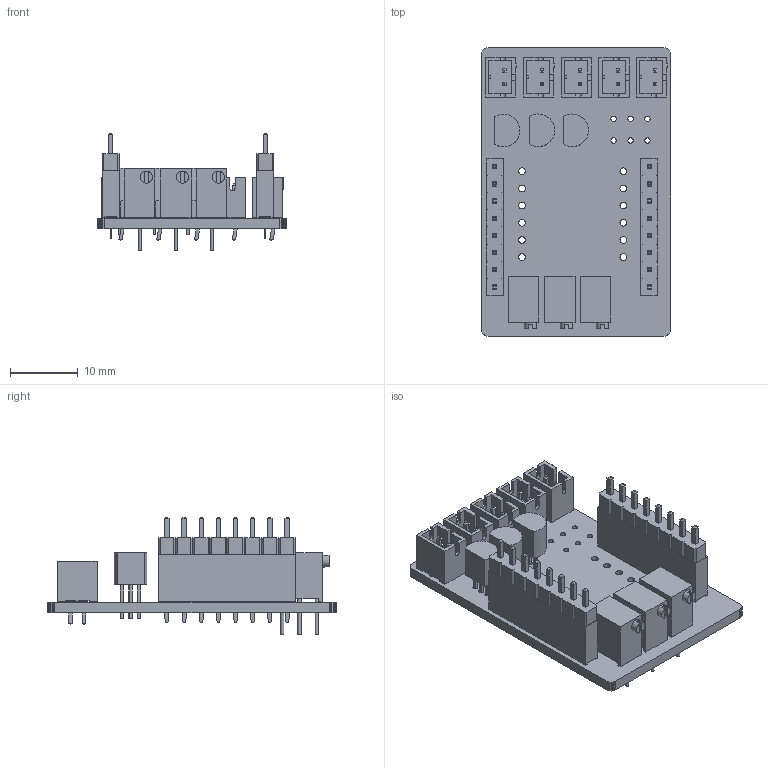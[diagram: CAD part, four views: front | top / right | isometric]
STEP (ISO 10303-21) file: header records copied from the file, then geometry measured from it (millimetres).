
FILE_DESCRIPTION(('KiCad electronic assembly'),'2;1');
FILE_NAME('PCBController-v2.step','2025-02-27T13:38:16',('Pcbnew'),( 'Kicad'),'Open CASCADE STEP processor 7.5','KiCad to STEP converter' ,'Unknown');
FILE_SCHEMA(('AUTOMOTIVE_DESIGN { 1 0 10303 214 1 1 1 1 }'));
Length unit declared in the file: millimetre
Products named in the file (12): PCBController-v2 1; Potentiometer_Bourns_3266Z_Horizontal; SOLID; JST_PH_B2B-PH-K_1x02_P2.00mm_Vertical; TO-92_Inline; PinHeader_1x08_P2.54mm_Vertical; PinSocket_1x08_P2.54mm_Vertical; PCBController-v2 PCB
Assembly tree (21 placements, depth 3):
  PCBController-v2 1
    Potentiometer_Bourns_3266Z_Horizontal  x3
      SOLID
    JST_PH_B2B-PH-K_1x02_P2.00mm_Vertical  x5
      SOLID
    TO-92_Inline  x3
      SOLID
    PinHeader_1x08_P2.54mm_Vertical  x2
      SOLID
    PinSocket_1x08_P2.54mm_Vertical  x2
      SOLID
    PCBController-v2 PCB
Bounding box: 28 x 42.65 x 17.38 mm (x, y, z)
Volume: 4108.7 mm3; surface area: 7284.7 mm2
Topology: 16 solids, 16 shells, 1596 faces, 4130 edges, 2673 vertices
Faces by surface type: plane 1509, cylinder 87
Full cylindrical faces by diameter (mm): 0.46 x9, 0.75 x19, 0.8 x15, 1 x28, 1.78 x3
Entity records: 48782 total; most frequent: CARTESIAN_POINT 7970, DIRECTION 6783, LINE 5058, VECTOR 5058, ORIENTED_EDGE 3564, PCURVE 3564, DEFINITIONAL_REPRESENTATION 3564, EDGE_CURVE 1782
